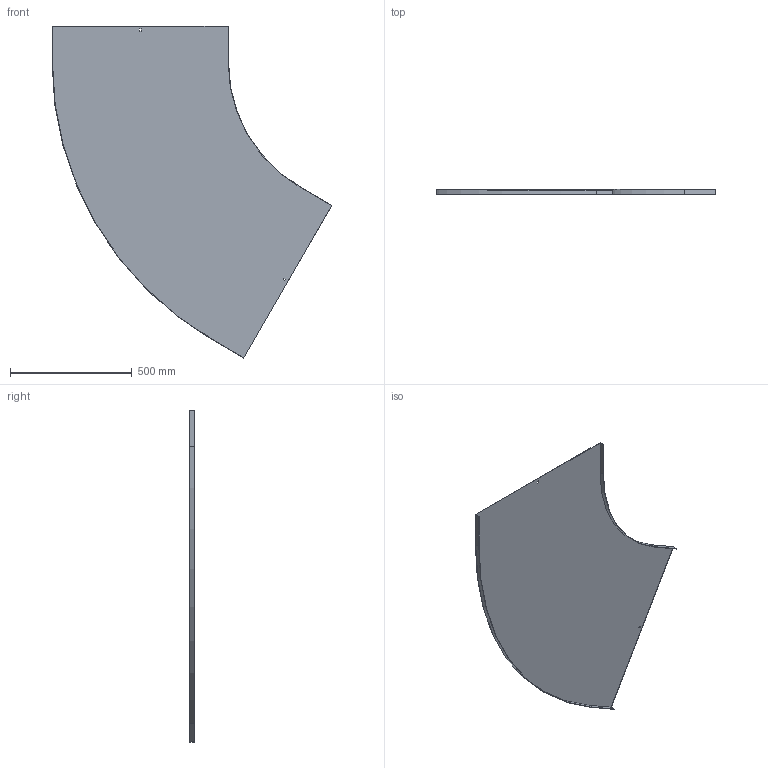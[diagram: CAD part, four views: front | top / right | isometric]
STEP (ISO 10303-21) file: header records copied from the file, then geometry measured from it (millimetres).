
FILE_DESCRIPTION (( 'STEP AP214' ), '1' );
FILE_NAME ('13N6P700.step', '2025-02-21T13:36:17', ( '' ), ( '' ), 'SwSTEP 2.0', 'SolidWorks 2023', '' );
FILE_SCHEMA (( 'AUTOMOTIVE_DESIGN' ));
Length unit declared in the file: millimetre
Products named in the file (1): 13N6P700
Bounding box: 1147.15 x 20 x 1360.79 mm (x, y, z)
Volume: 1475939.4 mm3; surface area: 1974176.8 mm2
Topology: 1 solids, 1 shells, 26 faces, 72 edges, 48 vertices
Faces by surface type: plane 22, cylinder 4
Entity records: 855 total; most frequent: CARTESIAN_POINT 147, ORIENTED_EDGE 144, DIRECTION 134, EDGE_CURVE 72, LINE 64, VECTOR 64, VERTEX_POINT 48, AXIS2_PLACEMENT_3D 35
